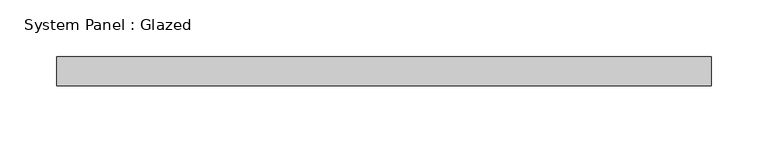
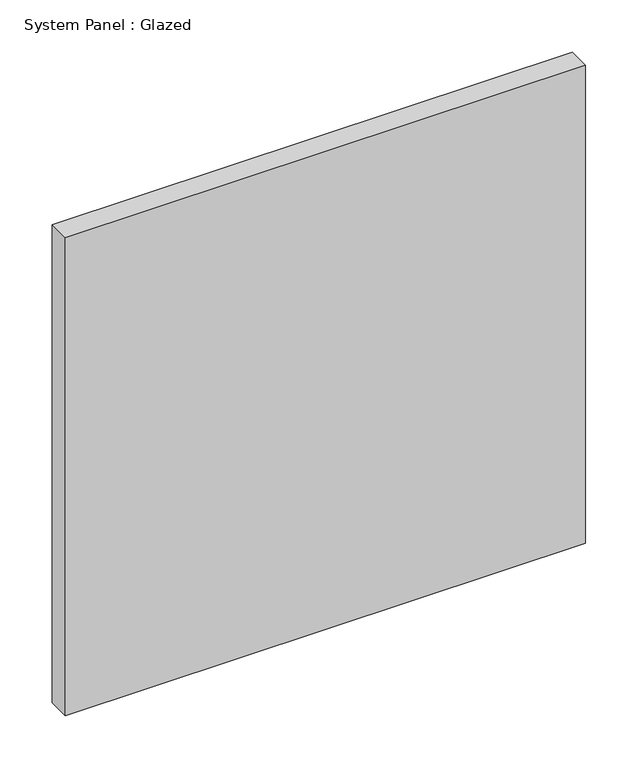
"""IFC4 building model written with IfcOpenShell, lengths in millimetres: plate geometry, System Panel : Glazed."""

from ifc_helpers import new_model, si_unit, origin, origin_with_axes, place, context, project, spatial, polyline, outline, extrude, source, transform, mapped, element, save


def system_panel_glazed_0a79d3c6(model_context):
    return source(origin(), model_context, "Body", "SweptSolid", [
        extrude(outline(polyline([(287.655, -12.7), (-287.655, -12.7), (-287.655, 12.7), (287.655, 12.7), (287.655, -12.7)])), origin_with_axes(), (0.0, 0.0, 1.0), 558.8),
    ])


if __name__ == "__main__":
    model = new_model("IFC4")
    model_context = context("Model", 3, world=origin())
    ifc_project = project(units=[si_unit("LENGTHUNIT", "METRE", prefix="MILLI")], contexts=[model_context])
    site = spatial("IfcSite", under=ifc_project)
    building = spatial("IfcBuilding", under=site)
    placement = place(None, origin())
    system_panel_glazed_shape = system_panel_glazed_0a79d3c6(model_context)
    element("IfcPlate", 1, ObjectType="System Panel : Glazed", at=placement, inside=building, context=model_context, shape_type="MappedRepresentation", body=[
        mapped(system_panel_glazed_shape, transform((0.0, 0.0, 0.0), x_axis=(1.0, 0.0, 0.0), y_axis=(0.0, 1.0, 0.0), z_axis=(0.0, 0.0, 1.0))),
    ])
    save(model, "model.ifc")
